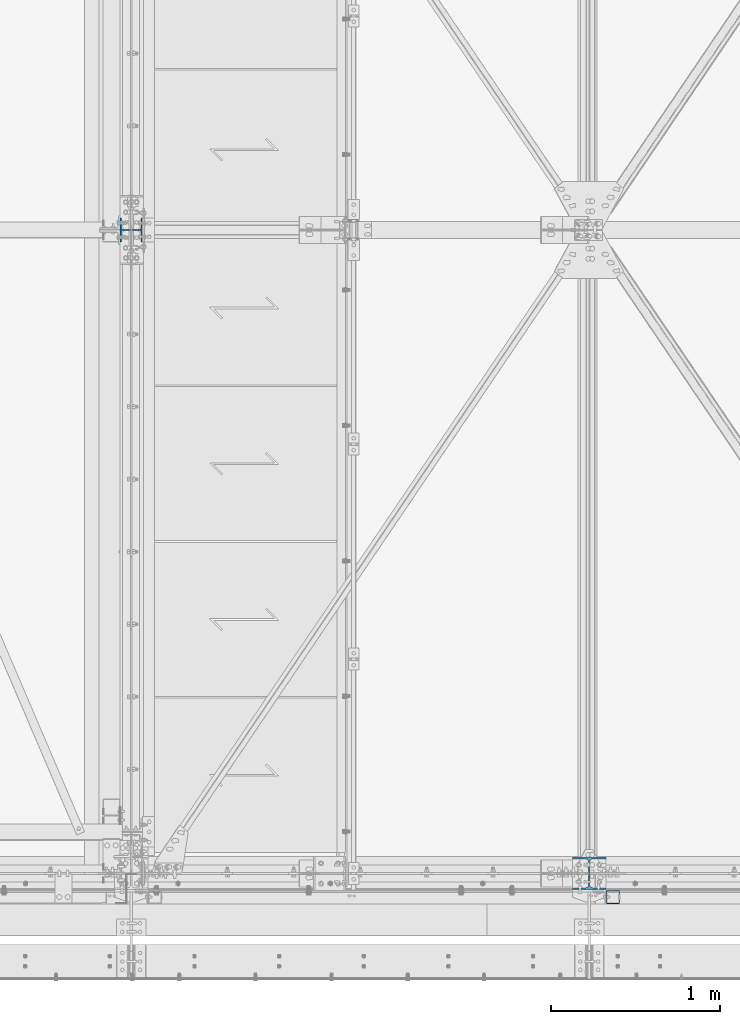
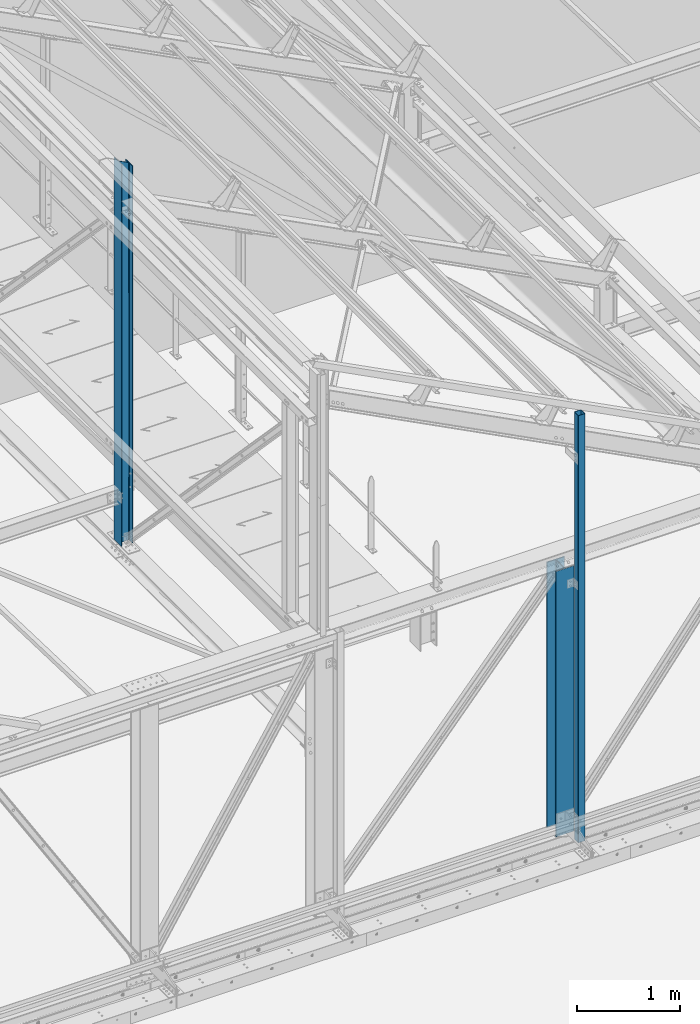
# One storey, part 9 of 362: 3 columns, 3 elements without a shape of their own.
"""IFC2X3 building model written with IfcOpenShell, lengths in millimetres."""

from ifc_helpers import new_model, si_unit, frame, origin_with_axes, origin_2d_with_axis, place, context, subcontext, project, spatial, hollow_rectangle, i_section, extrude, clip, halfspace, material, type_object, element, aggregate, save


model = new_model("IFC2X3")

# Units and contexts
model_context = context("Model", 3, precision=1e-05, world=origin_with_axes())
body_context = subcontext(model_context, "Body", "Model", "MODEL_VIEW")
ifc_project = project(units=[si_unit("LENGTHUNIT", "METRE", prefix="MILLI"), si_unit("AREAUNIT", "SQUARE_METRE"), si_unit("VOLUMEUNIT", "CUBIC_METRE"), si_unit("MASSUNIT", "GRAM", prefix="KILO"), si_unit("TIMEUNIT", "SECOND"), si_unit("PLANEANGLEUNIT", "RADIAN"), si_unit("SOLIDANGLEUNIT", "STERADIAN"), si_unit("THERMODYNAMICTEMPERATUREUNIT", "DEGREE_CELSIUS"), si_unit("LUMINOUSINTENSITYUNIT", "LUMEN")], contexts=[model_context])

# Site, building, storey
site_placement = place(None, origin_with_axes())
site = spatial("IfcSite", under=ifc_project, at=site_placement, Name="Undefined", CompositionType="ELEMENT")
building_placement = place(site_placement, origin_with_axes())
building = spatial("IfcBuilding", under=site, at=building_placement, Name="Undefined", CompositionType="ELEMENT")
storey_placement = place(building_placement, origin_with_axes())
storey = spatial("IfcBuildingStorey", under=building, at=storey_placement, Name="Undefined", CompositionType="ELEMENT", Elevation=0.0)

# Assembly, column
assembly_1_placement = place(storey_placement, origin_with_axes())
assembly_1 = element("IfcElementAssembly", 1, at=assembly_1_placement, inside=storey, Name="MONTANT", AssemblyPlace="NOTDEFINED", PredefinedType="NOTDEFINED")
ifc_material_1 = material(Name="Undefined/S235-E24")
column_type_1 = type_object("IfcColumnType", Name="TUBE-C-80*80*4", PredefinedType="NOTDEFINED")
column_1_placement = place(assembly_1_placement, frame((26314.9999999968, -139.999999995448, 5109.99999997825), z_axis=(0.0, 0.0, 1.0), x_axis=(0.0, 1.0, 0.0)))
column_1 = element("IfcColumn", 2, at=column_1_placement, type_object=column_type_1, material=ifc_material_1, Name="MONTANT BARDAGE", ObjectType="TUBE-C-80*80*4", context=body_context, shape_type="SweptSolid", body=[
    extrude(hollow_rectangle(XDim=80.0, YDim=80.0, WallThickness=4.0, InnerFilletRadius=4.0, OuterFilletRadius=8.0, at=origin_2d_with_axis()), frame((0.0, 0.0, 5070.00143645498), z_axis=(0.0, 0.0, -1.0), x_axis=(0.0, 1.0, 0.0)), (0.0, 0.0, 1.0), 5070.0),
])
aggregate(assembly_1, [column_1])

assembly_2_placement = place(storey_placement, origin_with_axes())
assembly_2 = element("IfcElementAssembly", 3, at=assembly_2_placement, inside=storey, Name="MONTANT", AssemblyPlace="NOTDEFINED", PredefinedType="NOTDEFINED")
ifc_material_2 = material(Name="Undefined/S275-E28")
column_type_2 = type_object("IfcColumnType", Name="HEA140", PredefinedType="NOTDEFINED")
column_2_placement = place(assembly_2_placement, frame((23470.0, 3800.0, 7260.0), z_axis=(0.0, 0.0, 1.0), x_axis=(-1.0, 0.0, 0.0)))
column_2 = element("IfcColumn", 4, at=column_2_placement, type_object=column_type_2, material=ifc_material_2, Name="MONTANT", ObjectType="HEA140", context=body_context, shape_type="Clipping", body=[
    clip(extrude(i_section(OverallWidth=140.0, OverallDepth=133.0, WebThickness=5.5, FlangeThickness=8.5, FilletRadius=12.0, at=origin_2d_with_axis()), frame((0.0, 0.0, 4551.40988027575), z_axis=(0.0, 0.0, -1.0), x_axis=(0.0, 1.0, 0.0)), (0.0, 0.0, 1.0), 4551.41), halfspace(frame((-66.5, 70.0, 4471.22657322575), z_axis=(-0.460093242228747, -7.1029704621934e-09, 0.887870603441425), x_axis=(0.887870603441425, 0.0, 0.460093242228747)), False)),
])
aggregate(assembly_2, [column_2])

assembly_3_placement = place(storey_placement, origin_with_axes())
assembly_3 = element("IfcElementAssembly", 5, at=assembly_3_placement, inside=storey, Name="MONTANT", AssemblyPlace="NOTDEFINED", PredefinedType="NOTDEFINED")
column_type_3 = type_object("IfcColumnType", Name="HEA200", PredefinedType="NOTDEFINED")
column_3_placement = place(assembly_3_placement, frame((26175.0, 0.0, 5200.0), z_axis=(0.0, 0.0, 1.0), x_axis=(0.0, 1.0, 0.0)))
column_3 = element("IfcColumn", 6, at=column_3_placement, type_object=column_type_3, material=ifc_material_2, Name="MONTANT", ObjectType="HEA200", context=body_context, shape_type="SweptSolid", body=[
    extrude(i_section(OverallWidth=200.0, OverallDepth=190.0, WebThickness=6.5, FlangeThickness=10.0, FilletRadius=18.0, at=origin_2d_with_axis()), frame((0.0, 0.0, 3149.99444626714), z_axis=(0.0, 0.0, -1.0), x_axis=(0.0, 1.0, 0.0)), (0.0, 0.0, 1.0), 3149.99),
])
aggregate(assembly_3, [column_3])

save(model, "model.ifc")
